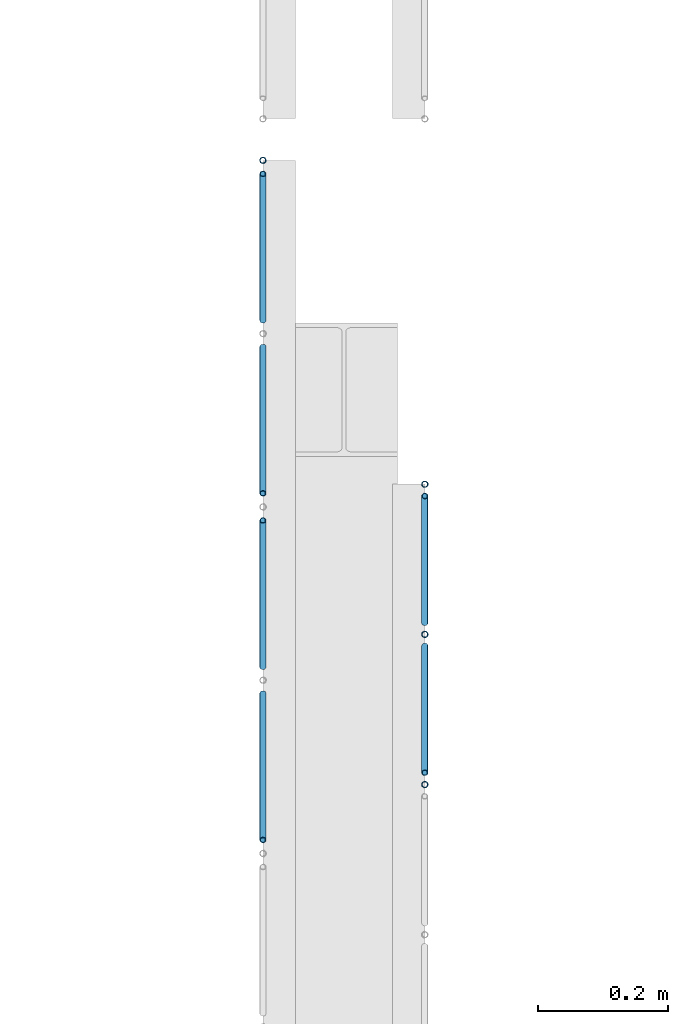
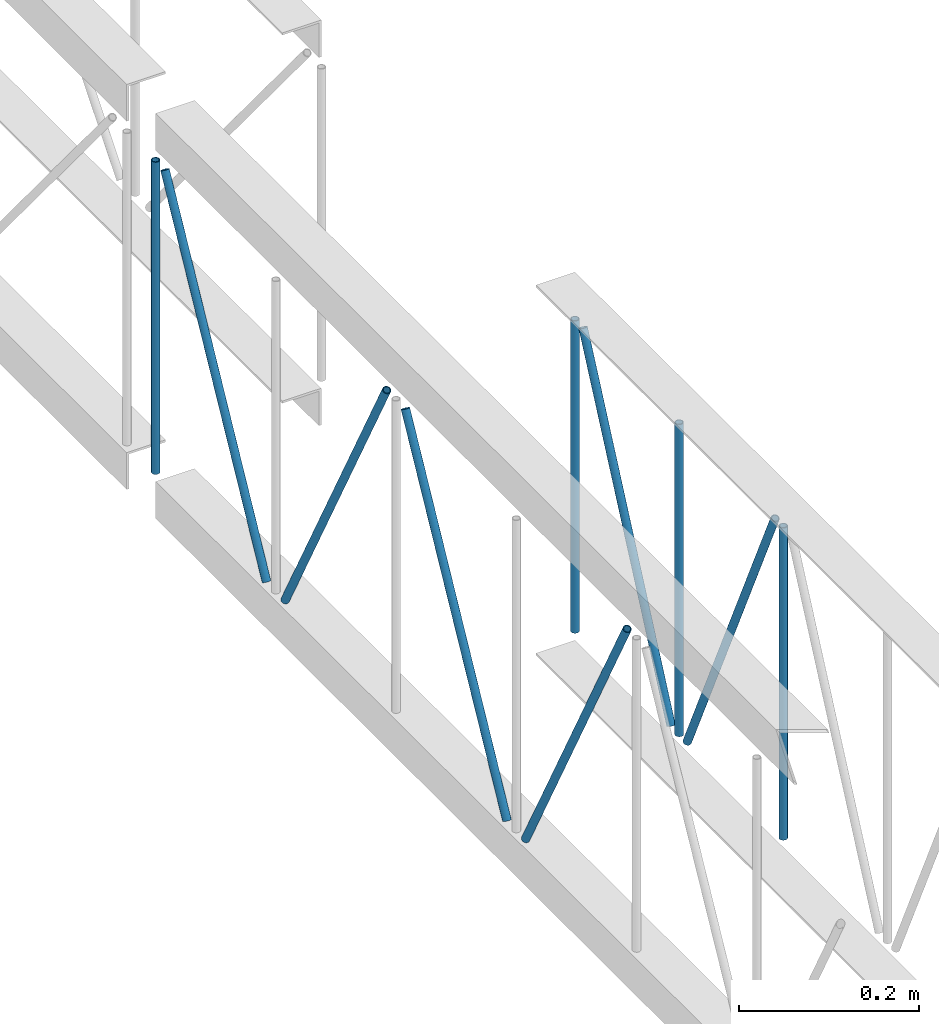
# One storey, part 21 of 153: 10 members, 2 elements without a shape of their own.
"""IFC4 building model written with IfcOpenShell, lengths in metres."""

from ifc_helpers import new_model, entity, si_unit, converted_unit, derived_unit, direction, frame, origin, place, context, subcontext, project, spatial, arc, indexed_curve, outline, extrude, source, transform, mapped, material, type_object, type_shapes, element, aggregate, save


model = new_model("IFC4")

# Units and contexts
model_context = context("Model", 3, precision=1e-05, world=origin(), true_north=direction((6.123031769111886e-17, 1.0)))
body_context = subcontext(model_context, "Body", "Model", "MODEL_VIEW")
ifc_project = project(units=[si_unit("LENGTHUNIT", "METRE"), si_unit("AREAUNIT", "SQUARE_METRE"), si_unit("VOLUMEUNIT", "CUBIC_METRE"), converted_unit("PLANEANGLEUNIT", "DEGREE", entity("IfcRatioMeasure", 0.017453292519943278), si_unit("PLANEANGLEUNIT", "RADIAN"), dimensions=[0, 0, 0, 0, 0, 0, 0]), si_unit("MASSUNIT", "GRAM", prefix="KILO"), derived_unit("MASSDENSITYUNIT", [(si_unit("MASSUNIT", "GRAM", prefix="KILO"), 1), (si_unit("LENGTHUNIT", "METRE"), -3)]), derived_unit("MOMENTOFINERTIAUNIT", [(si_unit("LENGTHUNIT", "METRE"), 4)]), si_unit("TIMEUNIT", "SECOND"), si_unit("FREQUENCYUNIT", "HERTZ"), si_unit("THERMODYNAMICTEMPERATUREUNIT", "DEGREE_CELSIUS"), derived_unit("THERMALTRANSMITTANCEUNIT", [(si_unit("MASSUNIT", "GRAM", prefix="KILO"), 1), (si_unit("THERMODYNAMICTEMPERATUREUNIT", "KELVIN"), -1), (si_unit("TIMEUNIT", "SECOND"), -3)]), derived_unit("VOLUMETRICFLOWRATEUNIT", [(si_unit("LENGTHUNIT", "METRE"), 3), (si_unit("TIMEUNIT", "SECOND"), -1)]), derived_unit("MASSFLOWRATEUNIT", [(si_unit("MASSUNIT", "GRAM", prefix="KILO"), 1), (si_unit("TIMEUNIT", "SECOND"), -1)]), derived_unit("ROTATIONALFREQUENCYUNIT", [(si_unit("TIMEUNIT", "SECOND"), -1)]), si_unit("ELECTRICCURRENTUNIT", "AMPERE"), si_unit("ELECTRICVOLTAGEUNIT", "VOLT"), si_unit("POWERUNIT", "WATT"), si_unit("FORCEUNIT", "NEWTON", prefix="KILO"), si_unit("ILLUMINANCEUNIT", "LUX"), si_unit("LUMINOUSFLUXUNIT", "LUMEN"), si_unit("LUMINOUSINTENSITYUNIT", "CANDELA"), derived_unit("USERDEFINED", [(si_unit("MASSUNIT", "GRAM", prefix="KILO"), -1), (si_unit("LENGTHUNIT", "METRE"), -2), (si_unit("TIMEUNIT", "SECOND"), 3), (si_unit("LUMINOUSFLUXUNIT", "LUMEN"), 1)]), derived_unit("SOUNDPOWERUNIT", [(si_unit("MASSUNIT", "GRAM", prefix="KILO"), 1), (si_unit("LENGTHUNIT", "METRE"), 2), (si_unit("TIMEUNIT", "SECOND"), -3)]), derived_unit("SOUNDPRESSUREUNIT", [(si_unit("MASSUNIT", "GRAM", prefix="KILO"), 1), (si_unit("LENGTHUNIT", "METRE"), -1), (si_unit("TIMEUNIT", "SECOND"), -2)]), derived_unit("LINEARVELOCITYUNIT", [(si_unit("LENGTHUNIT", "METRE"), 1), (si_unit("TIMEUNIT", "SECOND"), -1)]), si_unit("PRESSUREUNIT", "PASCAL"), derived_unit("USERDEFINED", [(si_unit("LENGTHUNIT", "METRE"), -2), (si_unit("MASSUNIT", "GRAM", prefix="KILO"), 1), (si_unit("TIMEUNIT", "SECOND"), -2)]), derived_unit("LINEARFORCEUNIT", [(si_unit("MASSUNIT", "GRAM", prefix="KILO"), 1), (si_unit("LENGTHUNIT", "METRE"), 1), (si_unit("TIMEUNIT", "SECOND"), -2), (si_unit("LENGTHUNIT", "METRE"), -1)]), derived_unit("PLANARFORCEUNIT", [(si_unit("MASSUNIT", "GRAM", prefix="KILO"), 1), (si_unit("LENGTHUNIT", "METRE"), 1), (si_unit("TIMEUNIT", "SECOND"), -2), (si_unit("LENGTHUNIT", "METRE"), -2)])], contexts=[model_context])

# Site, building, storey
site_placement = place(None, origin())
site = spatial("IfcSite", under=ifc_project, at=site_placement, Name="Superficie", CompositionType="ELEMENT")
building_placement = place(site_placement, origin())
building = spatial("IfcBuilding", under=site, at=building_placement, CompositionType="ELEMENT")
storey_placement = place(building_placement, frame((0.0, 0.0, 3.5999999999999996)))
storey = spatial("IfcBuildingStorey", under=building, at=storey_placement, Name="Nivel 1", CompositionType="ELEMENT", Elevation=3.5999999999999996)

# Assembly, member
assembly_1_placement = place(storey_placement, origin())
assembly_1 = element("IfcElementAssembly", 1, at=assembly_1_placement, inside=storey, Name="Viga de celosia 13:Viga de celosia 13", ObjectType="Viga de celosia 13:Viga de celosia 13", AssemblyPlace="NOTDEFINED", PredefinedType="TRUSS")
ifc_material = material(Name="Metal - Calibre delgado", Category="Metal")
member_type_1 = type_object("IfcMemberType", Name="HSS-Tubo estructural redondo:HSS 0.01", PredefinedType="BRACE", material=ifc_material)
shared_shape_1 = source(origin(), body_context, "Body", "SweptSolid", [
    extrude(outline(indexed_curve([(-0.005000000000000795, 7.502054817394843e-18), (-9.800269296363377e-18, -0.005000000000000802), (0.005000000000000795, -7.502054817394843e-18), (8.07772287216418e-18, 0.005000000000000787)], segments=[arc(1, 2, 3), arc(3, 4, 1)], self_intersect=False), holes=[indexed_curve([(0.003999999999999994, 7.222511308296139e-17), (6.910645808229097e-17, -0.004000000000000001), (-0.003999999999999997, -1.8650054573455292e-17), (-2.9156497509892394e-17, 0.003999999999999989)], segments=[arc(1, 2, 3), arc(3, 4, 1)], self_intersect=False)]), frame((-0.21200000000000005, 0.0, 0.0), z_axis=(1.0, 0.0, 0.0), x_axis=(0.0, 1.0, 0.0)), (0.0, 0.0, 1.0), 0.4240000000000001),
])
type_shapes(member_type_1, [shared_shape_1])
member_1_placement = place(assembly_1_placement, frame((-13.813200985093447, -9.198502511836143, 0.25), z_axis=(0.0, 1.0, 0.0), x_axis=(0.0, 0.0, 1.0)))
member_1 = element("IfcMember", 2, at=member_1_placement, type_object=member_type_1, material=ifc_material, Name="HSS-Tubo estructural redondo:HSS 0.01", ObjectType="HSS-Tubo estructural redondo:HSS 0.01", PredefinedType="BRACE", context=body_context, shape_type="MappedRepresentation", body=[
    mapped(shared_shape_1, transform((0.0, 0.0, 0.0), scale=1.0)),
])

# Assembly, members
assembly_2_placement = place(storey_placement, origin())
assembly_2 = element("IfcElementAssembly", 3, at=assembly_2_placement, inside=storey, Name="Viga de celosia 13:Viga de celosia 13", ObjectType="Viga de celosia 13:Viga de celosia 13", AssemblyPlace="NOTDEFINED", PredefinedType="TRUSS")
member_type_2 = type_object("IfcMemberType", Name="HSS-Tubo estructural redondo:HSS 0.01", PredefinedType="BRACE", material=ifc_material)
shared_shape_2 = source(origin(), body_context, "Body", "SweptSolid", [
    extrude(outline(indexed_curve([(-0.005000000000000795, 2.0824731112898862e-17), (-2.3122945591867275e-17, -0.005000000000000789), (0.005000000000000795, -2.08247311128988e-17), (2.14003991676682e-17, 0.005000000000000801)], segments=[arc(1, 2, 3), arc(3, 4, 1)], self_intersect=False), holes=[indexed_curve([(0.003999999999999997, -1.3094283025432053e-17), (-1.531427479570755e-18, -0.003999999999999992), (-0.004, 4.0098531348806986e-17), (4.1481388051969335e-17, 0.0039999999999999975)], segments=[arc(1, 2, 3), arc(3, 4, 1)], self_intersect=False)]), frame((-0.21200000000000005, 0.0, 0.0), z_axis=(1.0, 0.0, 0.0), x_axis=(0.0, -1.0, 0.0)), (0.0, 0.0, 1.0), 0.4240000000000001),
])
type_shapes(member_type_2, [shared_shape_2])
member_2_placement = place(assembly_2_placement, frame((-13.563200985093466, -10.162073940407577, 0.25), z_axis=(0.0, 1.0, 0.0), x_axis=(0.0, 0.0, 1.0)))
member_2 = element("IfcMember", 4, at=member_2_placement, type_object=member_type_2, material=ifc_material, Name="HSS-Tubo estructural redondo:HSS 0.01", ObjectType="HSS-Tubo estructural redondo:HSS 0.01", PredefinedType="BRACE", context=body_context, shape_type="MappedRepresentation", body=[
    mapped(shared_shape_2, transform((0.0, 0.0, 0.0), scale=1.0)),
])
member_3_placement = place(assembly_2_placement, frame((-13.563200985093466, -9.930288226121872, 0.25), z_axis=(0.0, 1.0, 0.0), x_axis=(0.0, 0.0, 1.0)))
member_3 = element("IfcMember", 5, at=member_3_placement, type_object=member_type_2, material=ifc_material, Name="HSS-Tubo estructural redondo:HSS 0.01", ObjectType="HSS-Tubo estructural redondo:HSS 0.01", PredefinedType="BRACE", context=body_context, shape_type="MappedRepresentation", body=[
    mapped(shared_shape_2, transform((0.0, 0.0, 0.0), scale=1.0)),
])
member_4_placement = place(assembly_2_placement, frame((-13.563200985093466, -9.698502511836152, 0.25), z_axis=(0.0, 1.0, 0.0), x_axis=(0.0, 0.0, 1.0)))
member_4 = element("IfcMember", 6, at=member_4_placement, type_object=member_type_2, material=ifc_material, Name="HSS-Tubo estructural redondo:HSS 0.01", ObjectType="HSS-Tubo estructural redondo:HSS 0.01", PredefinedType="BRACE", context=body_context, shape_type="MappedRepresentation", body=[
    mapped(shared_shape_2, transform((0.0, 0.0, 0.0), scale=1.0)),
])

# Member
member_type_3 = type_object("IfcMemberType", Name="HSS-Tubo estructural redondo:HSS 0.01", PredefinedType="BRACE", material=ifc_material)
shared_shape_3 = source(origin(), body_context, "Body", "SweptSolid", [
    extrude(outline(indexed_curve([(-0.005000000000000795, 7.502054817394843e-18), (-9.800269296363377e-18, -0.005000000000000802), (0.005000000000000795, -7.502054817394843e-18), (8.07772287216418e-18, 0.005000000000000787)], segments=[arc(1, 2, 3), arc(3, 4, 1)], self_intersect=False), holes=[indexed_curve([(0.003999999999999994, 7.222511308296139e-17), (6.910645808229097e-17, -0.004000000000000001), (-0.003999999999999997, -1.8650054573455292e-17), (-2.9156497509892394e-17, 0.003999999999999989)], segments=[arc(1, 2, 3), arc(3, 4, 1)], self_intersect=False)]), frame((-0.23950000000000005, 0.0, 0.0), z_axis=(1.0, 0.0, 0.0), x_axis=(0.0, 1.0, 0.0)), (0.0, 0.0, 1.0), 0.4790000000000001),
])
type_shapes(member_type_3, [shared_shape_3])
member_5_placement = place(assembly_1_placement, frame((-13.813200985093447, -10.134752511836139, 0.2500000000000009), z_axis=(0.0, -0.8817419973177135, -0.4717319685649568), x_axis=(0.0, 0.4717319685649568, -0.8817419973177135)))
member_5 = element("IfcMember", 7, at=member_5_placement, type_object=member_type_3, material=ifc_material, Name="HSS-Tubo estructural redondo:HSS 0.01", ObjectType="HSS-Tubo estructural redondo:HSS 0.01", PredefinedType="BRACE", context=body_context, shape_type="MappedRepresentation", body=[
    mapped(shared_shape_3, transform((0.0, 0.0, 0.0), scale=1.0)),
])

member_6_placement = place(assembly_1_placement, frame((-13.813200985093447, -9.867252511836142, 0.2500000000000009), z_axis=(0.0, 0.881741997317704, -0.47173196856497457), x_axis=(0.0, 0.47173196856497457, 0.881741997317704)))
member_6 = element("IfcMember", 8, at=member_6_placement, type_object=member_type_3, material=ifc_material, Name="HSS-Tubo estructural redondo:HSS 0.01", ObjectType="HSS-Tubo estructural redondo:HSS 0.01", PredefinedType="BRACE", context=body_context, shape_type="MappedRepresentation", body=[
    mapped(shared_shape_3, transform((0.0, 0.0, 0.0), scale=1.0)),
])

member_7_placement = place(assembly_1_placement, frame((-13.813200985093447, -9.599752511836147, 0.25000000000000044), z_axis=(0.0, -0.881741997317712, -0.47173196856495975), x_axis=(0.0, 0.47173196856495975, -0.881741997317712)))
member_7 = element("IfcMember", 9, at=member_7_placement, type_object=member_type_3, material=ifc_material, Name="HSS-Tubo estructural redondo:HSS 0.01", ObjectType="HSS-Tubo estructural redondo:HSS 0.01", PredefinedType="BRACE", context=body_context, shape_type="MappedRepresentation", body=[
    mapped(shared_shape_3, transform((0.0, 0.0, 0.0), scale=1.0)),
])

member_8_placement = place(assembly_1_placement, frame((-13.813200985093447, -9.332252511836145, 0.25000000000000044), z_axis=(0.0, 0.8817419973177, -0.471731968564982), x_axis=(0.0, 0.471731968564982, 0.8817419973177)))
member_8 = element("IfcMember", 10, at=member_8_placement, type_object=member_type_3, material=ifc_material, Name="HSS-Tubo estructural redondo:HSS 0.01", ObjectType="HSS-Tubo estructural redondo:HSS 0.01", PredefinedType="BRACE", context=body_context, shape_type="MappedRepresentation", body=[
    mapped(shared_shape_3, transform((0.0, 0.0, 0.0), scale=1.0)),
])

aggregate(assembly_1, [member_1, member_5, member_6, member_7, member_8])

member_type_4 = type_object("IfcMemberType", Name="HSS-Tubo estructural redondo:HSS 0.01", PredefinedType="BRACE", material=ifc_material)
shared_shape_4 = source(origin(), body_context, "Body", "SweptSolid", [
    extrude(outline(indexed_curve([(-0.005000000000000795, 2.0824731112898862e-17), (-2.3122945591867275e-17, -0.005000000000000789), (0.005000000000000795, -2.08247311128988e-17), (2.14003991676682e-17, 0.005000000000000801)], segments=[arc(1, 2, 3), arc(3, 4, 1)], self_intersect=False), holes=[indexed_curve([(0.003999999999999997, -1.3094283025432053e-17), (-1.531427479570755e-18, -0.003999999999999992), (-0.004, 4.0098531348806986e-17), (4.1481388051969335e-17, 0.0039999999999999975)], segments=[arc(1, 2, 3), arc(3, 4, 1)], self_intersect=False)]), frame((-0.2325, 0.0, 0.0), z_axis=(1.0, 0.0, 0.0), x_axis=(0.0, -1.0, 0.0)), (0.0, 0.0, 1.0), 0.465),
])
type_shapes(member_type_4, [shared_shape_4])
member_9_placement = place(assembly_2_placement, frame((-13.563200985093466, -10.046181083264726, 0.25000000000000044), z_axis=(0.0, -0.9072563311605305, -0.42057811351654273), x_axis=(0.0, 0.42057811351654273, -0.9072563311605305)))
member_9 = element("IfcMember", 11, at=member_9_placement, type_object=member_type_4, material=ifc_material, Name="HSS-Tubo estructural redondo:HSS 0.01", ObjectType="HSS-Tubo estructural redondo:HSS 0.01", PredefinedType="BRACE", context=body_context, shape_type="MappedRepresentation", body=[
    mapped(shared_shape_4, transform((0.0, 0.0, 0.0), scale=1.0)),
])

member_10_placement = place(assembly_2_placement, frame((-13.563200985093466, -9.814395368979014, 0.24999999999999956), z_axis=(0.0, 0.9072563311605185, -0.4205781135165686), x_axis=(0.0, 0.4205781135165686, 0.9072563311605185)))
member_10 = element("IfcMember", 12, at=member_10_placement, type_object=member_type_4, material=ifc_material, Name="HSS-Tubo estructural redondo:HSS 0.01", ObjectType="HSS-Tubo estructural redondo:HSS 0.01", PredefinedType="BRACE", context=body_context, shape_type="MappedRepresentation", body=[
    mapped(shared_shape_4, transform((0.0, 0.0, 0.0), scale=1.0)),
])

aggregate(assembly_2, [member_2, member_3, member_4, member_9, member_10])

save(model, "model.ifc")
